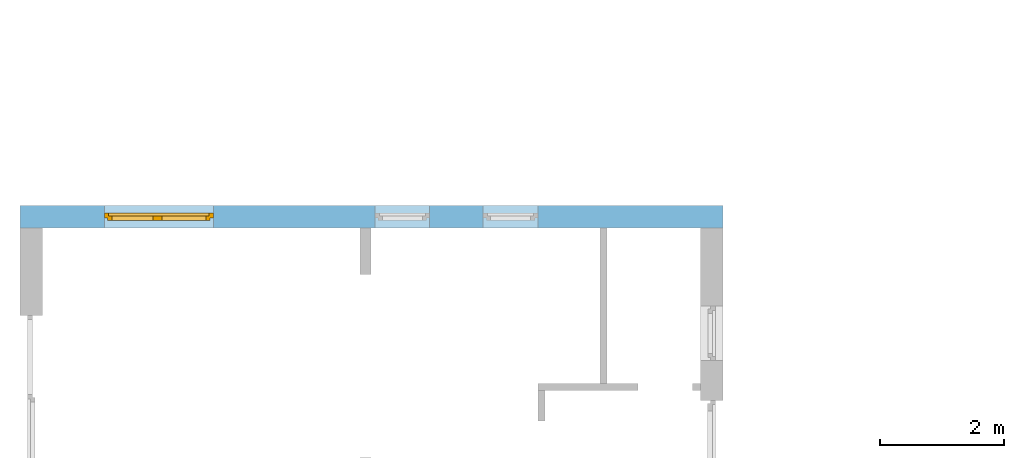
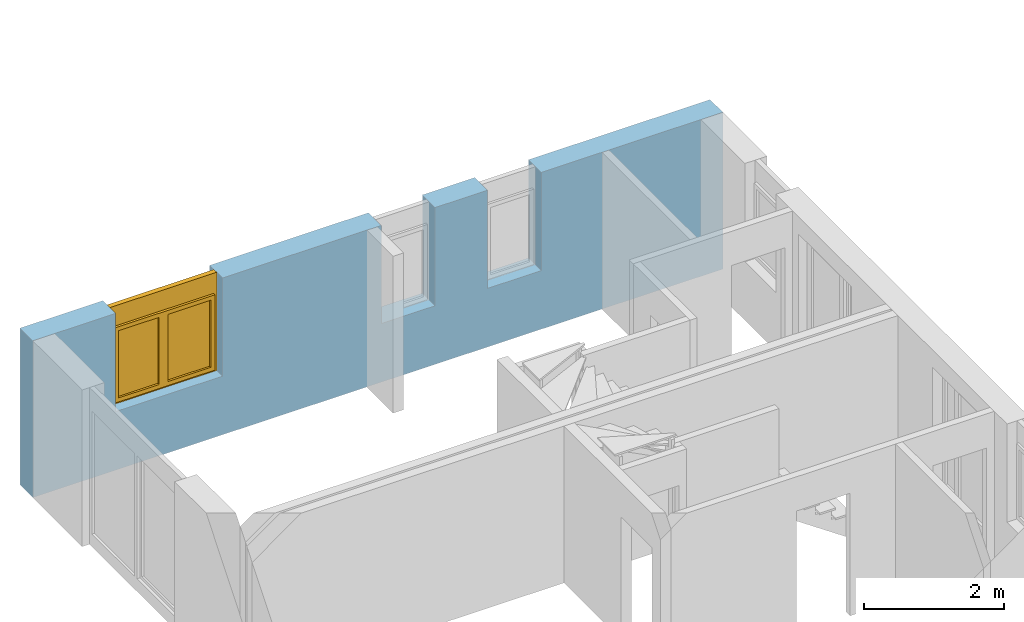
# One storey, part 12 of 41: 1 window, 3 openings, plus 1 element that does not belong to this part.
"""IFC2X3 building model written with IfcOpenShell, lengths in millimetres."""

from ifc_helpers import new_model, entity, si_unit, converted_unit, frame, frame_2d, origin, origin_with_axes, place, context, subcontext, project, spatial, rectangle, extrude, faceted_brep, material, layer, layer_set, layer_usage, type_object, element, fill, save


model = new_model("IFC2X3")

# Units and contexts
model_context = context("Model", 3, precision=1e-05, world=origin())
body_context = subcontext(model_context, "Body", "Model", "MODEL_VIEW")
ifc_project = project(units=[si_unit("LENGTHUNIT", "METRE", prefix="MILLI"), converted_unit("PLANEANGLEUNIT", "DEGREE", entity("IfcPlaneAngleMeasure", 0.0174532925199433), si_unit("PLANEANGLEUNIT", "RADIAN"), dimensions=[0, 0, 0, 0, 0, 0, 0]), si_unit("AREAUNIT", "SQUARE_METRE"), si_unit("VOLUMEUNIT", "CUBIC_METRE")], contexts=[model_context])

# Building, storey
building_placement = place(None, origin())
building = spatial("IfcBuilding", under=ifc_project, at=building_placement, Name="Gebäude", CompositionType="ELEMENT")
storey_placement = place(building_placement, frame((0.0, 0.0, -200.0), z_axis=(0.0, 0.0, 1.0), x_axis=(1.0, 0.0, 0.0)))
storey = spatial("IfcBuildingStorey", under=building, at=storey_placement, Name="EG.- Grundriss", CompositionType="ELEMENT", Elevation=-200.0)

# Wall, openings, window
ifc_material_1 = material(Name="Poroton")
ifc_layer = layer(ifc_material_1, 365.0000000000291)
ifc_layer_set = layer_set([ifc_layer])
ifc_layer_usage = layer_usage(ifc_layer_set, "AXIS2", "POSITIVE", 0.0)
wall_placement = place(storey_placement, frame((142357.7928067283, 136889.8877324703, 0.0), z_axis=(0.0, 0.0, 1.0), x_axis=(-1.0, 0.0, 0.0)))
wall = element("IfcWallStandardCase", 1, at=wall_placement, inside=storey, material=ifc_layer_usage, Name="<Unnamed Element>", context=body_context, shape_type="SweptSolid", body=[
    extrude(rectangle(XDim=11365.00000000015, YDim=365.0000000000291, at=frame_2d((5682.500000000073, 182.5000000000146), x_axis=(1.0, 0.0))), origin_with_axes(), (0.0, 0.0, 1.0), 2730.0),
])
opening_1_placement = place(wall_placement, frame((2990.0, 0.0, 1020.0), z_axis=(0.0, 1.0, 0.0), x_axis=(0.0, 0.0, 1.0)))
element("IfcOpeningElement", 2, at=opening_1_placement, cuts=wall, Name="Fensteröffnung", ObjectType="Opening", context=body_context, shape_type="SweptSolid", body=[
    extrude(rectangle(XDim=1710.0, YDim=885.0, at=frame_2d((855.0, 442.5), x_axis=(1.0, 0.0))), origin_with_axes(), (0.0, 0.0, 1.0), 365.0000000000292),
])
opening_2_placement = place(wall_placement, frame((4740.0, 0.0, 1020.0), z_axis=(0.0, 1.0, 0.0), x_axis=(0.0, 0.0, 1.0)))
element("IfcOpeningElement", 3, at=opening_2_placement, cuts=wall, Name="Fensteröffnung", ObjectType="Opening", context=body_context, shape_type="SweptSolid", body=[
    extrude(rectangle(XDim=1710.0, YDim=885.0, at=frame_2d((855.0, 442.5), x_axis=(1.0, 0.0))), origin_with_axes(), (0.0, 0.0, 1.0), 365.0000000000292),
])
opening_3_placement = place(wall_placement, frame((8240.0, 0.0, 1020.0), z_axis=(0.0, 1.0, 0.0), x_axis=(0.0, 0.0, 1.0)))
opening_3 = element("IfcOpeningElement", 4, at=opening_3_placement, cuts=wall, Name="Fensteröffnung", ObjectType="Opening", context=body_context, shape_type="SweptSolid", body=[
    extrude(rectangle(XDim=1710.0, YDim=1760.0, at=frame_2d((854.9999999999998, 880.0), x_axis=(1.0, 0.0))), origin_with_axes(), (0.0, 0.0, 1.0), 365.0000000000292),
])
ifc_material_2 = material()
window_style = type_object("IfcWindowStyle", Name="Fenster", ConstructionType="NOTDEFINED", OperationType="USERDEFINED", ParameterTakesPrecedence=False, Sizeable=False)
window_placement = place(opening_3_placement, frame((0.0, 0.0, 0.0), z_axis=(1.0, 0.0, 0.0), x_axis=(0.0, 1.0, 0.0)))
window = element("IfcWindow", 5, at=window_placement, inside=storey, type_object=window_style, material=ifc_material_2, Name="Fenster", OverallHeight=1710.0, OverallWidth=1760.0, context=body_context, shape_type="Brep", body=[
    faceted_brep([(1760.0, 200.0000000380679, 1710.0), (1690.000000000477, 200.0000000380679, 1710.0), (1690.000000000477, 200.0000000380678, -2.449293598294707e-15), (1760.0, 200.0000000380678, -2.449293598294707e-15), (1760.0, 120.0000000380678, 2.449293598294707e-15), (1690.000000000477, 120.0000000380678, 2.449293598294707e-15), (1690.000000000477, 120.0000000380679, 1710.0), (1760.0, 120.0000000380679, 1710.0), (1760.0, 200.0000000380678, -2.449293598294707e-15), (1760.0, 120.0000000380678, 2.449293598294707e-15), (1760.0, 120.0000000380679, 1710.0), (1760.0, 200.0000000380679, 1710.0), (1690.000000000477, 200.0000000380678, -2.449293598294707e-15), (1690.000000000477, 120.0000000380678, 2.449293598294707e-15), (1760.0, 120.0000000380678, 2.449293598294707e-15), (1760.0, 200.0000000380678, -2.449293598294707e-15), (1690.000000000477, 200.0000000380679, 1710.0), (1690.000000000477, 120.0000000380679, 1710.0), (1690.000000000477, 120.0000000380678, 2.449293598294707e-15), (1690.000000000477, 200.0000000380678, -2.449293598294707e-15), (1760.0, 200.0000000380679, 1710.0), (1760.0, 120.0000000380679, 1710.0), (1690.000000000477, 120.0000000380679, 1710.0), (1690.000000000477, 200.0000000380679, 1710.0)], [[[0, 1, 2, 3]], [[4, 5, 6, 7]], [[8, 9, 10, 11]], [[12, 13, 14, 15]], [[16, 17, 18, 19]], [[20, 21, 22, 23]]], orient=[[False], [False], [False], [False], [False], [False]]),
    faceted_brep([(69.99999999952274, 200.0000000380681, 1710.0), (0.0, 200.0000000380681, 1710.0), (0.0, 200.000000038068, -2.449293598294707e-15), (69.99999999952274, 200.000000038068, -2.449293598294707e-15), (69.99999999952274, 120.000000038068, 2.449293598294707e-15), (0.0, 120.000000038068, 2.449293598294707e-15), (0.0, 120.0000000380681, 1710.0), (69.99999999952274, 120.0000000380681, 1710.0), (69.99999999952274, 200.000000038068, -2.449293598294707e-15), (69.99999999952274, 120.000000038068, 2.449293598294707e-15), (69.99999999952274, 120.0000000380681, 1710.0), (69.99999999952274, 200.0000000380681, 1710.0), (0.0, 200.000000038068, -2.449293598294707e-15), (0.0, 120.000000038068, 2.449293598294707e-15), (69.99999999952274, 120.000000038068, 2.449293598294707e-15), (69.99999999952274, 200.000000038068, -2.449293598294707e-15), (0.0, 200.0000000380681, 1710.0), (0.0, 120.0000000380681, 1710.0), (0.0, 120.000000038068, 2.449293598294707e-15), (0.0, 200.000000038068, -2.449293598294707e-15), (69.99999999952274, 200.0000000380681, 1710.0), (69.99999999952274, 120.0000000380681, 1710.0), (0.0, 120.0000000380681, 1710.0), (0.0, 200.0000000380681, 1710.0)], [[[0, 1, 2, 3]], [[4, 5, 6, 7]], [[8, 9, 10, 11]], [[12, 13, 14, 15]], [[16, 17, 18, 19]], [[20, 21, 22, 23]]], orient=[[False], [False], [False], [False], [False], [False]]),
    faceted_brep([(1690.000000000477, 200.0000000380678, 70.0), (69.99999999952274, 200.000000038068, 70.0), (69.99999999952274, 200.000000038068, -2.449293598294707e-15), (1690.000000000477, 200.0000000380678, -2.449293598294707e-15), (1690.000000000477, 120.0000000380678, 2.449293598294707e-15), (69.99999999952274, 120.000000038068, 2.449293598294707e-15), (69.99999999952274, 120.000000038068, 70.0), (1690.000000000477, 120.0000000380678, 70.0), (1690.000000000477, 200.0000000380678, -2.449293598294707e-15), (1690.000000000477, 120.0000000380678, 2.449293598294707e-15), (1690.000000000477, 120.0000000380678, 70.0), (1690.000000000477, 200.0000000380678, 70.0), (69.99999999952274, 200.000000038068, -2.449293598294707e-15), (69.99999999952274, 120.000000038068, 2.449293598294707e-15), (1690.000000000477, 120.0000000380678, 2.449293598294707e-15), (1690.000000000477, 200.0000000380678, -2.449293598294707e-15), (69.99999999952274, 200.000000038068, 70.0), (69.99999999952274, 120.000000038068, 70.0), (69.99999999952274, 120.000000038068, 2.449293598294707e-15), (69.99999999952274, 200.000000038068, -2.449293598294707e-15), (1690.000000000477, 200.0000000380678, 70.0), (1690.000000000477, 120.0000000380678, 70.0), (69.99999999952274, 120.000000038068, 70.0), (69.99999999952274, 200.000000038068, 70.0)], [[[0, 1, 2, 3]], [[4, 5, 6, 7]], [[8, 9, 10, 11]], [[12, 13, 14, 15]], [[16, 17, 18, 19]], [[20, 21, 22, 23]]], orient=[[False], [False], [False], [False], [False], [False]]),
    faceted_brep([(1690.000000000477, 200.0000000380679, 1710.0), (69.99999999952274, 200.0000000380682, 1710.0), (69.99999999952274, 200.0000000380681, 1340.0), (1690.000000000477, 200.0000000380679, 1340.0), (1690.000000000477, 120.0000000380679, 1340.0), (69.99999999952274, 120.0000000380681, 1340.0), (69.99999999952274, 120.0000000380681, 1710.0), (1690.000000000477, 120.0000000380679, 1710.0), (1690.000000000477, 200.0000000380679, 1340.0), (1690.000000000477, 120.0000000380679, 1340.0), (1690.000000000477, 120.0000000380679, 1710.0), (1690.000000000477, 200.0000000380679, 1710.0), (69.99999999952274, 200.0000000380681, 1340.0), (69.99999999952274, 120.0000000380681, 1340.0), (1690.000000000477, 120.0000000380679, 1340.0), (1690.000000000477, 200.0000000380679, 1340.0), (69.99999999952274, 200.0000000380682, 1710.0), (69.99999999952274, 120.0000000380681, 1710.0), (69.99999999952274, 120.0000000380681, 1340.0), (69.99999999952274, 200.0000000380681, 1340.0), (1690.000000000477, 200.0000000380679, 1710.0), (1690.000000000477, 120.0000000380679, 1710.0), (69.99999999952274, 120.0000000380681, 1710.0), (69.99999999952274, 200.0000000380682, 1710.0)], [[[0, 1, 2, 3]], [[4, 5, 6, 7]], [[8, 9, 10, 11]], [[12, 13, 14, 15]], [[16, 17, 18, 19]], [[20, 21, 22, 23]]], orient=[[False], [False], [False], [False], [False], [False]]),
    faceted_brep([(1710.000000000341, 240.0000000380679, 1360.0), (1640.000000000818, 240.0000000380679, 1360.0), (1640.000000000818, 240.0000000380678, 50.0), (1710.000000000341, 240.0000000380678, 50.0), (1710.000000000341, 170.0000000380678, 50.00000000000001), (1640.000000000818, 170.0000000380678, 50.00000000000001), (1640.000000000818, 170.0000000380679, 1360.0), (1710.000000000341, 170.0000000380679, 1360.0), (1710.000000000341, 240.0000000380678, 50.0), (1710.000000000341, 170.0000000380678, 50.00000000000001), (1710.000000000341, 170.0000000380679, 1360.0), (1710.000000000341, 240.0000000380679, 1360.0), (1640.000000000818, 240.0000000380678, 50.0), (1640.000000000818, 170.0000000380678, 50.00000000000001), (1710.000000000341, 170.0000000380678, 50.00000000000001), (1710.000000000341, 240.0000000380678, 50.0), (1640.000000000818, 240.0000000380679, 1360.0), (1640.000000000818, 170.0000000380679, 1360.0), (1640.000000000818, 170.0000000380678, 50.00000000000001), (1640.000000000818, 240.0000000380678, 50.0), (1710.000000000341, 240.0000000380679, 1360.0), (1710.000000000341, 170.0000000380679, 1360.0), (1640.000000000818, 170.0000000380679, 1360.0), (1640.000000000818, 240.0000000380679, 1360.0)], [[[0, 1, 2, 3]], [[4, 5, 6, 7]], [[8, 9, 10, 11]], [[12, 13, 14, 15]], [[16, 17, 18, 19]], [[20, 21, 22, 23]]], orient=[[False], [False], [False], [False], [False], [False]]),
    faceted_brep([(970.4999999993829, 240.000000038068, 1360.0), (900.4999999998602, 240.000000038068, 1360.0), (900.4999999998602, 240.0000000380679, 50.0), (970.4999999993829, 240.0000000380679, 50.0), (970.4999999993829, 170.0000000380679, 50.00000000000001), (900.4999999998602, 170.0000000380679, 50.00000000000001), (900.4999999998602, 170.000000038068, 1360.0), (970.4999999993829, 170.000000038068, 1360.0), (970.4999999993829, 240.0000000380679, 50.0), (970.4999999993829, 170.0000000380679, 50.00000000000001), (970.4999999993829, 170.000000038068, 1360.0), (970.4999999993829, 240.000000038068, 1360.0), (900.4999999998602, 240.0000000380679, 50.0), (900.4999999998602, 170.0000000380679, 50.00000000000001), (970.4999999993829, 170.0000000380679, 50.00000000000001), (970.4999999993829, 240.0000000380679, 50.0), (900.4999999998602, 240.000000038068, 1360.0), (900.4999999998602, 170.000000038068, 1360.0), (900.4999999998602, 170.0000000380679, 50.00000000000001), (900.4999999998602, 240.0000000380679, 50.0), (970.4999999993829, 240.000000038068, 1360.0), (970.4999999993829, 170.000000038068, 1360.0), (900.4999999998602, 170.000000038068, 1360.0), (900.4999999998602, 240.000000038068, 1360.0)], [[[0, 1, 2, 3]], [[4, 5, 6, 7]], [[8, 9, 10, 11]], [[12, 13, 14, 15]], [[16, 17, 18, 19]], [[20, 21, 22, 23]]], orient=[[False], [False], [False], [False], [False], [False]]),
    faceted_brep([(1640.000000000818, 240.0000000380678, 120.0), (970.499999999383, 240.0000000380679, 120.0), (970.499999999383, 240.0000000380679, 50.0), (1640.000000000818, 240.0000000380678, 50.0), (1640.000000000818, 170.0000000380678, 50.00000000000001), (970.499999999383, 170.0000000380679, 50.00000000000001), (970.499999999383, 170.0000000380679, 120.0), (1640.000000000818, 170.0000000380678, 120.0), (1640.000000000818, 240.0000000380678, 50.0), (1640.000000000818, 170.0000000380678, 50.00000000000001), (1640.000000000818, 170.0000000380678, 120.0), (1640.000000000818, 240.0000000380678, 120.0), (970.499999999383, 240.0000000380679, 50.0), (970.499999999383, 170.0000000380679, 50.00000000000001), (1640.000000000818, 170.0000000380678, 50.00000000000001), (1640.000000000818, 240.0000000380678, 50.0), (970.499999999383, 240.0000000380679, 120.0), (970.499999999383, 170.0000000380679, 120.0), (970.499999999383, 170.0000000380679, 50.00000000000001), (970.499999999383, 240.0000000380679, 50.0), (1640.000000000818, 240.0000000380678, 120.0), (1640.000000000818, 170.0000000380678, 120.0), (970.499999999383, 170.0000000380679, 120.0), (970.499999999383, 240.0000000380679, 120.0)], [[[0, 1, 2, 3]], [[4, 5, 6, 7]], [[8, 9, 10, 11]], [[12, 13, 14, 15]], [[16, 17, 18, 19]], [[20, 21, 22, 23]]], orient=[[False], [False], [False], [False], [False], [False]]),
    faceted_brep([(1640.000000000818, 240.0000000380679, 1360.0), (970.499999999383, 240.000000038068, 1360.0), (970.499999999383, 240.000000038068, 1290.0), (1640.000000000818, 240.0000000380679, 1290.0), (1640.000000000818, 170.0000000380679, 1290.0), (970.499999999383, 170.000000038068, 1290.0), (970.499999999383, 170.000000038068, 1360.0), (1640.000000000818, 170.0000000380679, 1360.0), (1640.000000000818, 240.0000000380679, 1290.0), (1640.000000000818, 170.0000000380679, 1290.0), (1640.000000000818, 170.0000000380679, 1360.0), (1640.000000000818, 240.0000000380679, 1360.0), (970.499999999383, 240.000000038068, 1290.0), (970.499999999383, 170.000000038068, 1290.0), (1640.000000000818, 170.0000000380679, 1290.0), (1640.000000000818, 240.0000000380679, 1290.0), (970.499999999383, 240.000000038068, 1360.0), (970.499999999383, 170.000000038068, 1360.0), (970.499999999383, 170.000000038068, 1290.0), (970.499999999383, 240.000000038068, 1290.0), (1640.000000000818, 240.0000000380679, 1360.0), (1640.000000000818, 170.0000000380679, 1360.0), (970.499999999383, 170.000000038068, 1360.0), (970.499999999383, 240.000000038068, 1360.0)], [[[0, 1, 2, 3]], [[4, 5, 6, 7]], [[8, 9, 10, 11]], [[12, 13, 14, 15]], [[16, 17, 18, 19]], [[20, 21, 22, 23]]], orient=[[False], [False], [False], [False], [False], [False]]),
    faceted_brep([(899.499999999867, 240.000000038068, 1360.0), (829.5000000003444, 240.000000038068, 1360.0), (829.5000000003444, 240.0000000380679, 50.0), (899.499999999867, 240.0000000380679, 50.0), (899.499999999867, 170.0000000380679, 50.00000000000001), (829.5000000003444, 170.0000000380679, 50.00000000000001), (829.5000000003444, 170.000000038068, 1360.0), (899.499999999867, 170.000000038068, 1360.0), (899.499999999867, 240.0000000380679, 50.0), (899.499999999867, 170.0000000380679, 50.00000000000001), (899.499999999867, 170.000000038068, 1360.0), (899.499999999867, 240.000000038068, 1360.0), (829.5000000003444, 240.0000000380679, 50.0), (829.5000000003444, 170.0000000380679, 50.00000000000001), (899.499999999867, 170.0000000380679, 50.00000000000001), (899.499999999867, 240.0000000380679, 50.0), (829.5000000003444, 240.000000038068, 1360.0), (829.5000000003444, 170.000000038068, 1360.0), (829.5000000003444, 170.0000000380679, 50.00000000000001), (829.5000000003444, 240.0000000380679, 50.0), (899.499999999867, 240.000000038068, 1360.0), (899.499999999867, 170.000000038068, 1360.0), (829.5000000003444, 170.000000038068, 1360.0), (829.5000000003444, 240.000000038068, 1360.0)], [[[0, 1, 2, 3]], [[4, 5, 6, 7]], [[8, 9, 10, 11]], [[12, 13, 14, 15]], [[16, 17, 18, 19]], [[20, 21, 22, 23]]], orient=[[False], [False], [False], [False], [False], [False]]),
    faceted_brep([(119.9999999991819, 240.0000000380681, 1360.0), (49.99999999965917, 240.0000000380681, 1360.0), (49.99999999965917, 240.000000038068, 50.0), (119.9999999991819, 240.000000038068, 50.0), (119.9999999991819, 170.000000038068, 50.00000000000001), (49.99999999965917, 170.000000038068, 50.00000000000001), (49.99999999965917, 170.0000000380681, 1360.0), (119.9999999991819, 170.0000000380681, 1360.0), (119.9999999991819, 240.000000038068, 50.0), (119.9999999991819, 170.000000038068, 50.00000000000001), (119.9999999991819, 170.0000000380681, 1360.0), (119.9999999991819, 240.0000000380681, 1360.0), (49.99999999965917, 240.000000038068, 50.0), (49.99999999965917, 170.000000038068, 50.00000000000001), (119.9999999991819, 170.000000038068, 50.00000000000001), (119.9999999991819, 240.000000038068, 50.0), (49.99999999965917, 240.0000000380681, 1360.0), (49.99999999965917, 170.0000000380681, 1360.0), (49.99999999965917, 170.000000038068, 50.00000000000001), (49.99999999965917, 240.000000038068, 50.0), (119.9999999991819, 240.0000000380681, 1360.0), (119.9999999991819, 170.0000000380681, 1360.0), (49.99999999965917, 170.0000000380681, 1360.0), (49.99999999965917, 240.0000000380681, 1360.0)], [[[0, 1, 2, 3]], [[4, 5, 6, 7]], [[8, 9, 10, 11]], [[12, 13, 14, 15]], [[16, 17, 18, 19]], [[20, 21, 22, 23]]], orient=[[False], [False], [False], [False], [False], [False]]),
    faceted_brep([(829.5000000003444, 240.0000000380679, 120.0), (119.9999999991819, 240.000000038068, 120.0), (119.9999999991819, 240.000000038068, 50.0), (829.5000000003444, 240.0000000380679, 50.0), (829.5000000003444, 170.0000000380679, 50.00000000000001), (119.9999999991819, 170.000000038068, 50.00000000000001), (119.9999999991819, 170.000000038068, 120.0), (829.5000000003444, 170.0000000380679, 120.0), (829.5000000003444, 240.0000000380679, 50.0), (829.5000000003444, 170.0000000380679, 50.00000000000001), (829.5000000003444, 170.0000000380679, 120.0), (829.5000000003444, 240.0000000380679, 120.0), (119.9999999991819, 240.000000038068, 50.0), (119.9999999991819, 170.000000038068, 50.00000000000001), (829.5000000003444, 170.0000000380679, 50.00000000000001), (829.5000000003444, 240.0000000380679, 50.0), (119.9999999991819, 240.000000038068, 120.0), (119.9999999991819, 170.000000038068, 120.0), (119.9999999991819, 170.000000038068, 50.00000000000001), (119.9999999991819, 240.000000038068, 50.0), (829.5000000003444, 240.0000000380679, 120.0), (829.5000000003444, 170.0000000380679, 120.0), (119.9999999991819, 170.000000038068, 120.0), (119.9999999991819, 240.000000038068, 120.0)], [[[0, 1, 2, 3]], [[4, 5, 6, 7]], [[8, 9, 10, 11]], [[12, 13, 14, 15]], [[16, 17, 18, 19]], [[20, 21, 22, 23]]], orient=[[False], [False], [False], [False], [False], [False]]),
    faceted_brep([(829.5000000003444, 240.000000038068, 1360.0), (119.9999999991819, 240.0000000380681, 1360.0), (119.9999999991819, 240.0000000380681, 1290.0), (829.5000000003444, 240.000000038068, 1290.0), (829.5000000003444, 170.000000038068, 1290.0), (119.9999999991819, 170.0000000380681, 1290.0), (119.9999999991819, 170.0000000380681, 1360.0), (829.5000000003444, 170.000000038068, 1360.0), (829.5000000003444, 240.000000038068, 1290.0), (829.5000000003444, 170.000000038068, 1290.0), (829.5000000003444, 170.000000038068, 1360.0), (829.5000000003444, 240.000000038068, 1360.0), (119.9999999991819, 240.0000000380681, 1290.0), (119.9999999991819, 170.0000000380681, 1290.0), (829.5000000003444, 170.000000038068, 1290.0), (829.5000000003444, 240.000000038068, 1290.0), (119.9999999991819, 240.0000000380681, 1360.0), (119.9999999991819, 170.0000000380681, 1360.0), (119.9999999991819, 170.0000000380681, 1290.0), (119.9999999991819, 240.0000000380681, 1290.0), (829.5000000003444, 240.000000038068, 1360.0), (829.5000000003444, 170.000000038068, 1360.0), (119.9999999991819, 170.0000000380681, 1360.0), (119.9999999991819, 240.0000000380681, 1360.0)], [[[0, 1, 2, 3]], [[4, 5, 6, 7]], [[8, 9, 10, 11]], [[12, 13, 14, 15]], [[16, 17, 18, 19]], [[20, 21, 22, 23]]], orient=[[False], [False], [False], [False], [False], [False]]),
    faceted_brep([(1640.000000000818, 205.0000000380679, 120.0), (1640.000000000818, 205.0000000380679, 1290.0), (970.499999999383, 205.000000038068, 1290.0), (970.499999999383, 205.0000000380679, 120.0), (1640.000000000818, 204.0000000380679, 120.0), (970.499999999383, 204.0000000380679, 120.0), (970.499999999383, 204.000000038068, 1290.0), (1640.000000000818, 204.0000000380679, 1290.0), (1640.000000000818, 205.0000000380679, 120.0), (1640.000000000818, 204.0000000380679, 120.0), (1640.000000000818, 204.0000000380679, 1290.0), (1640.000000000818, 205.0000000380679, 1290.0), (1640.000000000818, 205.0000000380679, 1290.0), (1640.000000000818, 204.0000000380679, 1290.0), (970.499999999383, 204.000000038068, 1290.0), (970.499999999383, 205.000000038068, 1290.0), (970.499999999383, 205.000000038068, 1290.0), (970.499999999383, 204.000000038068, 1290.0), (970.499999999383, 204.0000000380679, 120.0), (970.499999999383, 205.0000000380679, 120.0), (970.499999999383, 205.0000000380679, 120.0), (970.499999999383, 204.0000000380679, 120.0), (1640.000000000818, 204.0000000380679, 120.0), (1640.000000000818, 205.0000000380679, 120.0)], [[[0, 1, 2, 3]], [[4, 5, 6, 7]], [[8, 9, 10, 11]], [[12, 13, 14, 15]], [[16, 17, 18, 19]], [[20, 21, 22, 23]]], orient=[[False], [False], [False], [False], [False], [False]]),
    faceted_brep([(829.5000000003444, 205.000000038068, 120.0), (829.5000000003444, 205.000000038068, 1290.0), (119.9999999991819, 205.0000000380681, 1290.0), (119.9999999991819, 205.000000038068, 120.0), (829.5000000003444, 204.000000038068, 120.0), (119.9999999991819, 204.000000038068, 120.0), (119.9999999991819, 204.0000000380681, 1290.0), (829.5000000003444, 204.000000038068, 1290.0), (829.5000000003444, 205.000000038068, 120.0), (829.5000000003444, 204.000000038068, 120.0), (829.5000000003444, 204.000000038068, 1290.0), (829.5000000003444, 205.000000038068, 1290.0), (829.5000000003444, 205.000000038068, 1290.0), (829.5000000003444, 204.000000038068, 1290.0), (119.9999999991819, 204.0000000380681, 1290.0), (119.9999999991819, 205.0000000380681, 1290.0), (119.9999999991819, 205.0000000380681, 1290.0), (119.9999999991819, 204.0000000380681, 1290.0), (119.9999999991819, 204.000000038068, 120.0), (119.9999999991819, 205.000000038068, 120.0), (119.9999999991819, 205.000000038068, 120.0), (119.9999999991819, 204.000000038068, 120.0), (829.5000000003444, 204.000000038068, 120.0), (829.5000000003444, 205.000000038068, 120.0)], [[[0, 1, 2, 3]], [[4, 5, 6, 7]], [[8, 9, 10, 11]], [[12, 13, 14, 15]], [[16, 17, 18, 19]], [[20, 21, 22, 23]]], orient=[[False], [False], [False], [False], [False], [False]]),
])
fill(opening_3, window)

save(model, "model.ifc")
